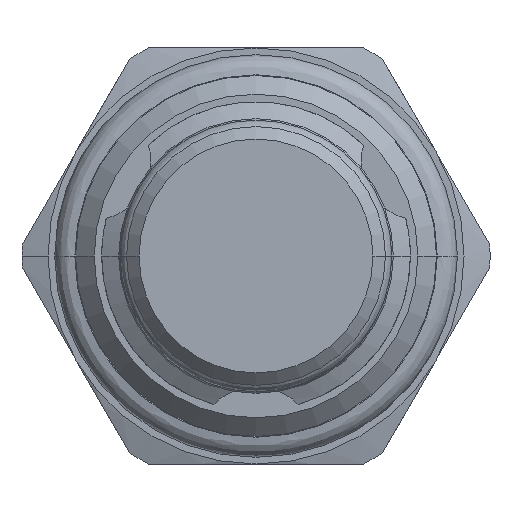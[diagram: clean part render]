
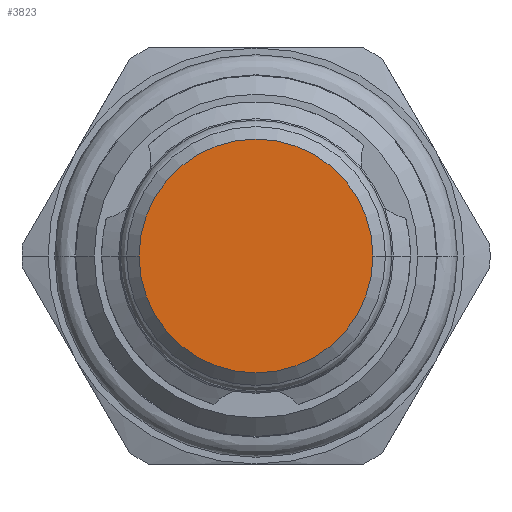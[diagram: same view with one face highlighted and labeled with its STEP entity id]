
A CAD part, front view. The second image highlights one B-rep face of the part: STEP entity #3823.
In plain terms, the highlighted planar face has unit normal (0, -1, 0).
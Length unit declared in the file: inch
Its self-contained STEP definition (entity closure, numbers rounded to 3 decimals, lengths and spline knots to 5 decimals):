
#1554=CARTESIAN_POINT('',(0.,-1.25277,0.));
#1555=DIRECTION('',(0.,-1.,0.));
#1556=DIRECTION('',(1.,0.,0.));
#1557=AXIS2_PLACEMENT_3D('',#1554,#1555,#1556);
#1564=CARTESIAN_POINT('',(0.,-1.25277,0.));
#1565=DIRECTION('',(0.,-1.,0.));
#1566=DIRECTION('',(-1.,0.,0.));
#1567=AXIS2_PLACEMENT_3D('',#1564,#1565,#1566);
#1848=CARTESIAN_POINT('',(0.281,-1.25277,0.));
#1849=CARTESIAN_POINT('',(-0.281,-1.25277,0.));
#1850=VERTEX_POINT('',#1848);
#1851=VERTEX_POINT('',#1849);
#3813=CARTESIAN_POINT('',(0.,-1.25277,0.));
#3814=DIRECTION('',(0.,1.,0.));
#3815=DIRECTION('',(1.,0.,0.));
#3816=AXIS2_PLACEMENT_3D('',#3813,#3814,#3815);
#3817=PLANE('',#3816);
#3819=ORIENTED_EDGE('',*,*,#3818,.F.);
#3820=ORIENTED_EDGE('',*,*,#3803,.F.);
#3821=EDGE_LOOP('',(#3819,#3820));
#3822=FACE_OUTER_BOUND('',#3821,.F.);
#3823=ADVANCED_FACE('',(#3822),#3817,.F.);
#1558=CIRCLE('',#1557,0.281);
#1568=CIRCLE('',#1567,0.281);
#3803=EDGE_CURVE('',#1850,#1851,#1558,.T.);
#3818=EDGE_CURVE('',#1851,#1850,#1568,.T.);
